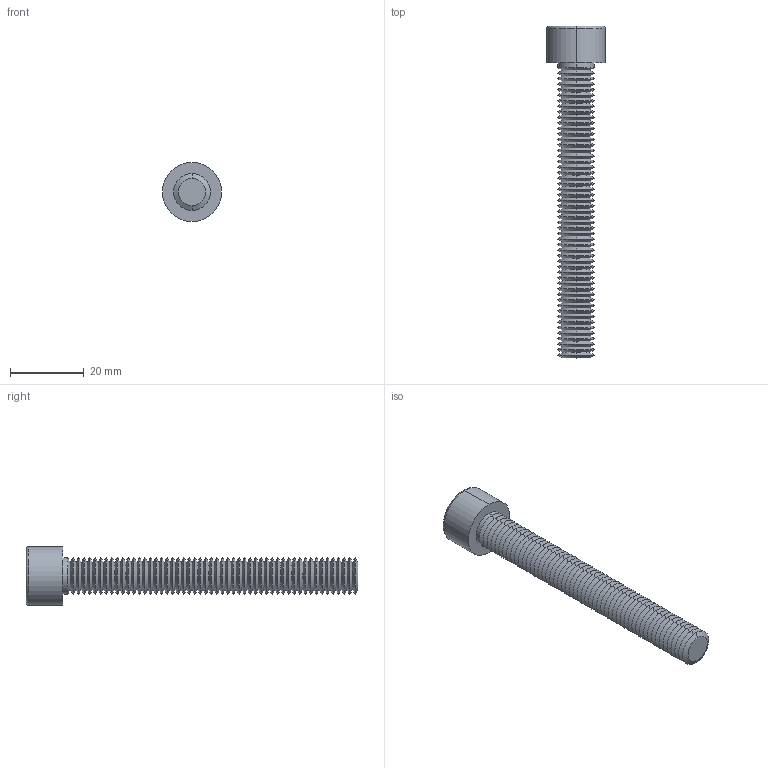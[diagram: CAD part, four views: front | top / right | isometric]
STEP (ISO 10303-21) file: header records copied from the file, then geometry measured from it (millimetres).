
FILE_DESCRIPTION (( 'STEP AP203' ), '1' );
FILE_NAME ('91N.100.0800.step', '2025-05-20T08:55:43', ( '' ), ( '' ), 'SwSTEP 2.0', 'SolidWorks 2019', '' );
FILE_SCHEMA (( 'CONFIG_CONTROL_DESIGN' ));
Length unit declared in the file: millimetre
Products named in the file (1): 91N.100.0800
Bounding box: 16 x 90 x 16 mm (x, y, z)
Volume: 6337.2 mm3; surface area: 5424.2 mm2
Topology: 1 solids, 1 shells, 240 faces, 479 edges, 241 vertices
Faces by surface type: cone 219, plane 15, cylinder 4, torus 2
Entity records: 6082 total; most frequent: DIRECTION 1187, CARTESIAN_POINT 990, ORIENTED_EDGE 954, EDGE_CURVE 477, AXIS2_PLACEMENT_3D 476, EDGE_LOOP 242, VERTEX_POINT 241, ADVANCED_FACE 240
